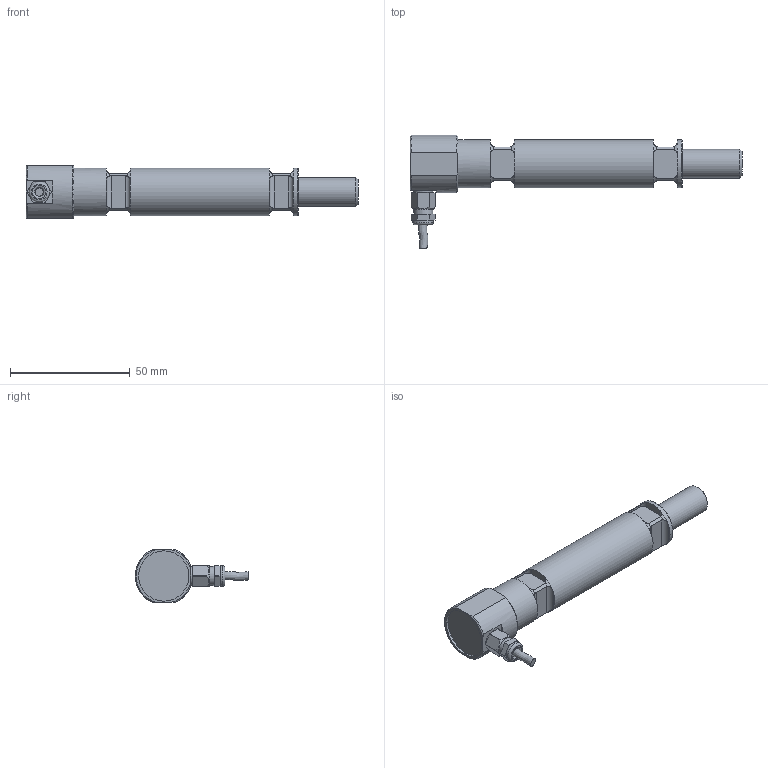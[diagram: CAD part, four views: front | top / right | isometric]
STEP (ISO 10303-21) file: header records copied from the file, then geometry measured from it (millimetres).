
FILE_DESCRIPTION(/* description */ ('Alibre Inc.'),/* implementation_level */ '2;1');
FILE_NAME(/* name */ 'export-D28CDFFE-2BF9-48AB-8541-5D13B05D97F9',/* time_stamp */ '2021-04-28T10:08:31+02:00',/* author */ (''),/* organization */ (''),/* preprocessor_version */ 'ST-DEVELOPER v17',/* originating_system */ 'Alibre',/* authorisation */ '');
FILE_SCHEMA (('CONFIG_CONTROL_DESIGN'));
Length unit declared in the file: centimetre
Products named in the file (6): ID_1
Bounding box: 138.5 x 47.51 x 22 mm (x, y, z)
Volume: 38741.2 mm3; surface area: 10761.6 mm2
Topology: 4 solids, 4 shells, 150 faces, 366 edges, 231 vertices
Faces by surface type: plane 63, cylinder 57, torus 19, cone 10, bspline 1
Full cylindrical faces by diameter (mm): 3.5 x1, 5 x1, 6 x1, 7 x1, 8 x1, 8.6 x1, 12 x1, 20 x3, 21 x1
Entity records: 4912 total; most frequent: CARTESIAN_POINT 1420, ORIENTED_EDGE 682, DIRECTION 438, EDGE_CURVE 341, VERTEX_POINT 226, AXIS2_PLACEMENT_3D 184, FACE_BOUND 179, EDGE_LOOP 178
